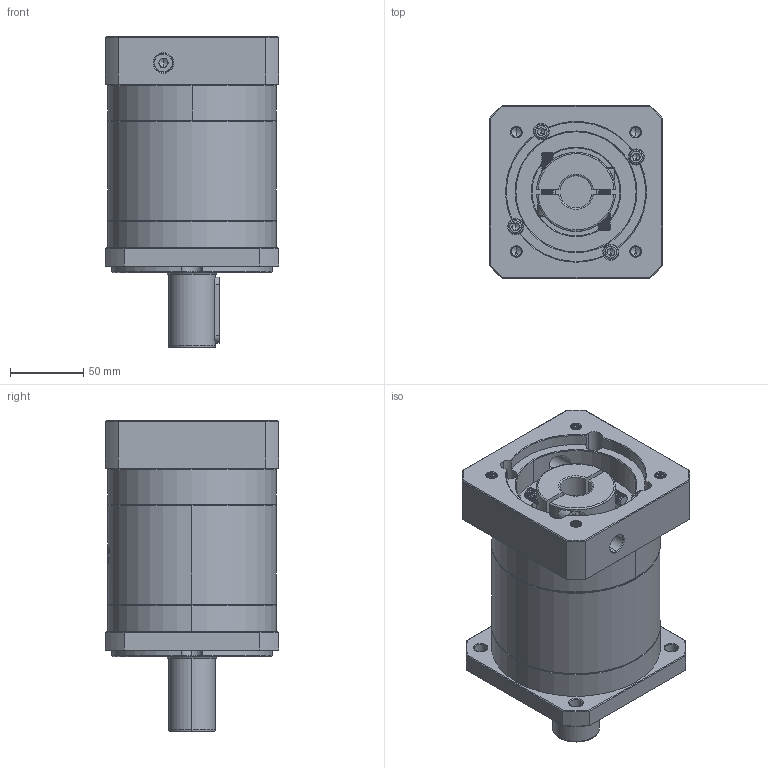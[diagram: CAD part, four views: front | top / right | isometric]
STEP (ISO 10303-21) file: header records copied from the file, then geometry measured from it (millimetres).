
FILE_DESCRIPTION (( 'STEP AP214' ), '1' );
FILE_NAME ('ZF120A-D32-L2-P2-22-95-115-M8.step', '2023-08-27T04:45:58', ( '' ), ( '' ), 'SwSTEP 2.0', 'SolidWorks 2016', '' );
FILE_SCHEMA (( 'AUTOMOTIVE_DESIGN' ));
Length unit declared in the file: millimetre
Products named in the file (1): ZF120A-D32-L2-P2-22-95-115-M8
Bounding box: 118 x 118 x 212 mm (x, y, z)
Volume: 1672685.8 mm3; surface area: 170549.9 mm2
Topology: 6 solids, 6 shells, 2234 faces, 5943 edges, 3810 vertices
Faces by surface type: plane 1034, bspline 439, cylinder 429, cone 332
Entity records: 123555 total; most frequent: CARTESIAN_POINT 48950, ORIENTED_EDGE 11826, DIRECTION 8539, EDGE_CURVE 5913, VERTEX_POINT 3810, LINE 3099, VECTOR 3099, AXIS2_PLACEMENT_3D 2720
